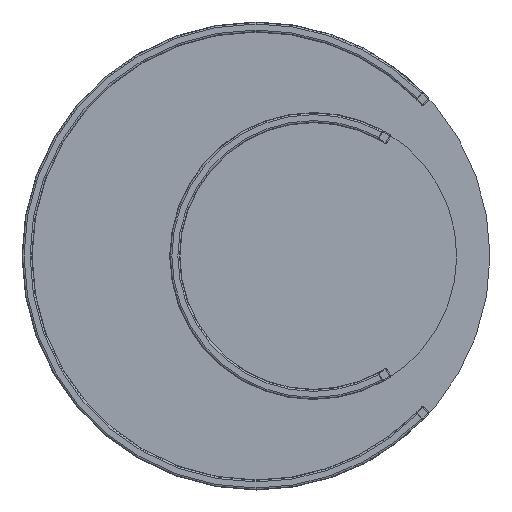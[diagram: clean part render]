
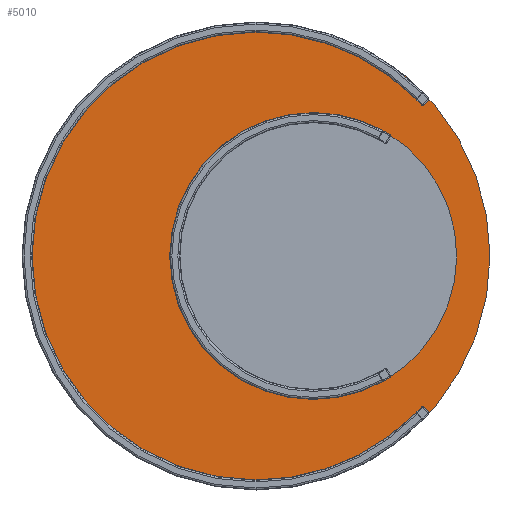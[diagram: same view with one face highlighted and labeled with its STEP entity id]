
A CAD part, front view. The second image highlights one B-rep face of the part: STEP entity #5010.
In plain terms, the highlighted planar face has unit normal (0, -1, 0) as drawn and (0, 0, -1) by its records, which use the part's own axes.
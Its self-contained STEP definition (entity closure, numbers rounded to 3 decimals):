
#128 = DIRECTION ( 'NONE',  ( 0., 0., 1. ) ) ;
#662 = AXIS2_PLACEMENT_3D ( 'NONE', #6449, #2161, #2219 ) ;
#830 = VERTEX_POINT ( 'NONE', #5169 ) ;
#1348 = DIRECTION ( 'NONE',  ( 1., 0., 0. ) ) ;
#1349 = AXIS2_PLACEMENT_3D ( 'NONE', #6135, #5072, #1348 ) ;
#1362 = CARTESIAN_POINT ( 'NONE',  ( -465., 0., 0. ) ) ;
#1539 = PLANE ( 'NONE',  #1349 ) ;
#1764 = EDGE_CURVE ( 'NONE', #830, #2977, #6703, .T. ) ;
#2061 = DIRECTION ( 'NONE',  ( 1., 0., 0. ) ) ;
#2161 = DIRECTION ( 'NONE',  ( 0., 0., 1. ) ) ;
#2219 = DIRECTION ( 'NONE',  ( 1., 0., 0. ) ) ;
#2977 = VERTEX_POINT ( 'NONE', #1362 ) ;
#3045 = EDGE_CURVE ( 'NONE', #2977, #830, #3654, .T. ) ;
#3434 = AXIS2_PLACEMENT_3D ( 'NONE', #6318, #128, #2061 ) ;
#3654 = CIRCLE ( 'NONE', #3434, 465. ) ;
#3880 = ORIENTED_EDGE ( 'NONE', *, *, #1764, .F. ) ;
#5010 = ADVANCED_FACE ( 'NONE', ( #6330 ), #1539, .F. ) ;
#5072 = DIRECTION ( 'NONE',  ( 0., 0., 1. ) ) ;
#5169 = CARTESIAN_POINT ( 'NONE',  ( 465., 0., 0. ) ) ;
#5641 = EDGE_LOOP ( 'NONE', ( #5929, #3880 ) ) ;
#5929 = ORIENTED_EDGE ( 'NONE', *, *, #3045, .F. ) ;
#6135 = CARTESIAN_POINT ( 'NONE',  ( 0., 0., 0. ) ) ;
#6318 = CARTESIAN_POINT ( 'NONE',  ( 0., 0., 0. ) ) ;
#6330 = FACE_OUTER_BOUND ( 'NONE', #5641, .T. ) ;
#6449 = CARTESIAN_POINT ( 'NONE',  ( 0., 0., 0. ) ) ;
#6703 = CIRCLE ( 'NONE', #662, 465. ) ;
